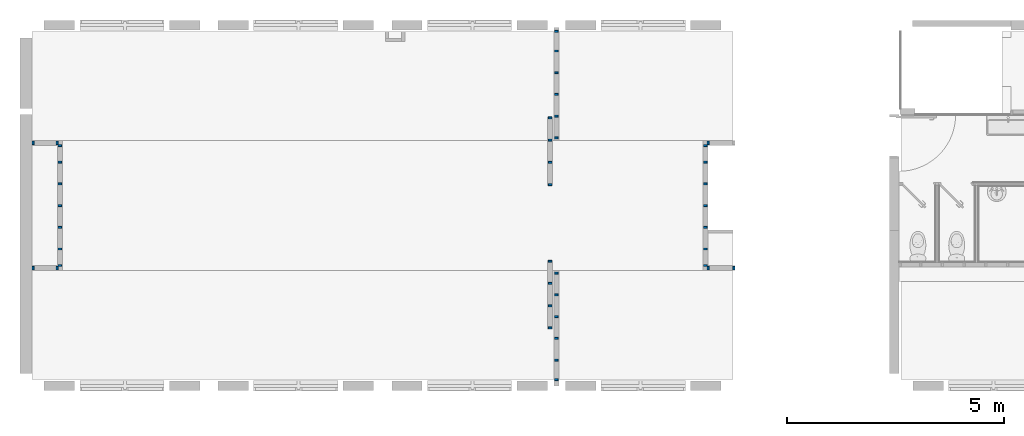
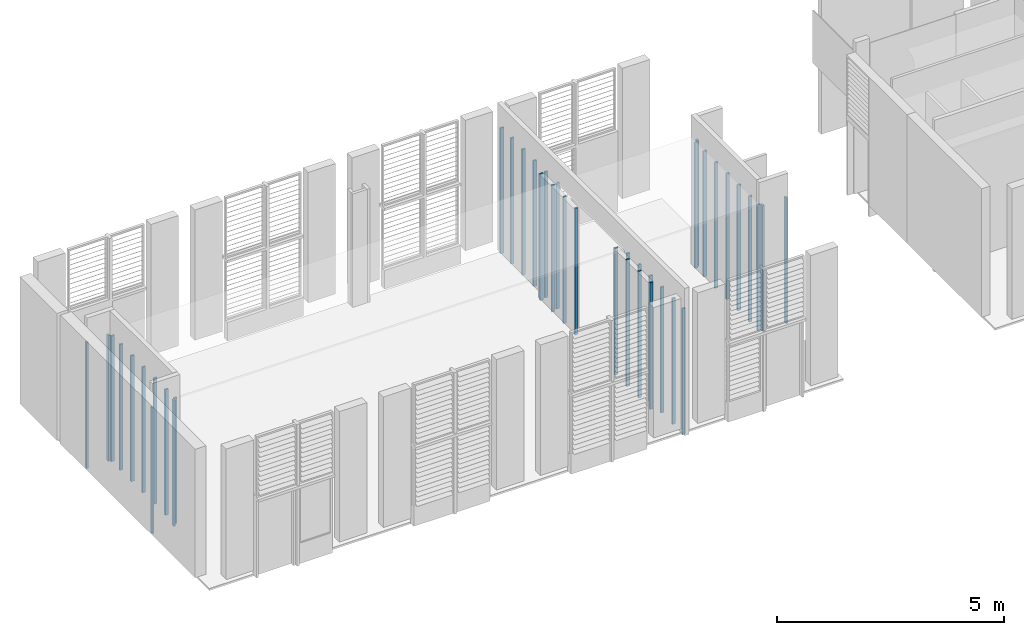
# One storey, part 1 of 8: 41 columns.
"""IFC2X3 building model written with IfcOpenShell, lengths in metres."""

import ifcopenshell
import ifcopenshell.guid

model = None  # the IFC model being written
_history = None  # IfcOwnerHistory: only IFC2X3 demands one
_inside = {}  # id of a spatial element -> (the spatial element, [elements in it])
_under = {}  # id of a project, library or spatial element -> (it, [spatial elements below it])
_declared = {}  # id of a project -> (the project, [libraries it declares])
_typed = {}  # id of a type object -> (the type object, [elements of that type])
_made_of = {}  # id of a material, layer set ... -> (it, [elements and type objects made of it])


def new_model(schema):
    """Start an empty IFC model of exactly this schema.

    Asked for "IFC4X3", IfcOpenShell would pick the latest addendum, in which some entities
    have other attributes; the version numbers below select the first issue.
    IFC2X3 requires an IfcOwnerHistory on every rooted entity: one is made here for all.
    """
    global model, _history
    if schema == "IFC4X3":
        model = ifcopenshell.file(schema_version=(4, 3, 0, 0))
    else:
        model = ifcopenshell.file(schema=schema)
    _inside.clear()
    _under.clear()
    _declared.clear()
    _typed.clear()
    _made_of.clear()
    _history = None
    if model.schema == "IFC2X3":
        org = make("IfcOrganization", Name="unknown")
        user = make(
            "IfcPersonAndOrganization",
            ThePerson=make("IfcPerson", FamilyName="unknown"),
            TheOrganization=org,
        )
        app = make(
            "IfcApplication",
            ApplicationDeveloper=org,
            Version="unknown",
            ApplicationFullName="unknown",
            ApplicationIdentifier="unknown",
        )
        _history = make(
            "IfcOwnerHistory",
            OwningUser=user,
            OwningApplication=app,
            ChangeAction="ADDED",
            CreationDate=0,
        )
    return model


def make(cls, **values):
    """One entity of the class cls with the attributes given. An attribute that is None is left unset."""
    return model.create_entity(
        cls, **{name: value for name, value in values.items() if value is not None}
    )


def entity(cls, *values):
    """Any entity or typed value of the class cls, its attributes in the order of the schema. None: left unset."""
    e = model.create_entity(cls)
    for i, value in enumerate(values):
        if value is not None:
            e[i] = value
    return e


def rooted(cls, **values):
    """An entity with a GlobalId (a new one), such as an element, a storey or a relation."""
    return make(cls, GlobalId=ifcopenshell.guid.new(), OwnerHistory=_history, **values)


def si_unit(unit_type, name, prefix=None):
    """IfcSIUnit, for example si_unit("LENGTHUNIT", "METRE", prefix="MILLI")."""
    return make("IfcSIUnit", UnitType=unit_type, Prefix=prefix, Name=name)


def converted_unit(unit_type, name, factor, base, dimensions=None, offset=None):
    """IfcConversionBasedUnit, such as the inch: factor (a typed value) times the base unit."""
    return make(
        "IfcConversionBasedUnit"
        if offset is None
        else "IfcConversionBasedUnitWithOffset",
        ConversionOffset=offset,
        Dimensions=None
        if dimensions is None
        else entity("IfcDimensionalExponents", *dimensions),
        UnitType=unit_type,
        Name=name,
        ConversionFactor=make(
            "IfcMeasureWithUnit", ValueComponent=factor, UnitComponent=base
        ),
    )


def derived_unit(unit_type, elements):
    """IfcDerivedUnit: a product of units, each with its exponent."""
    return make(
        "IfcDerivedUnit",
        Elements=[
            make("IfcDerivedUnitElement", Unit=unit, Exponent=power)
            for unit, power in elements
        ],
        UnitType=unit_type,
    )


def assignment(units):
    """IfcUnitAssignment: the units of a project."""
    return None if units is None else make("IfcUnitAssignment", Units=units)


def point(xyz):
    """IfcCartesianPoint."""
    return None if xyz is None else make("IfcCartesianPoint", Coordinates=xyz)


def direction(xyz):
    """IfcDirection."""
    return None if xyz is None else make("IfcDirection", DirectionRatios=xyz)


def frame(location, z_axis=None, x_axis=None):
    """IfcAxis2Placement3D, a coordinate frame: its origin and axes. An axis left out is left unset."""
    return make(
        "IfcAxis2Placement3D",
        Location=point(location),
        Axis=direction(z_axis),
        RefDirection=direction(x_axis),
    )


def frame_2d(location, x_axis=None):
    """IfcAxis2Placement2D, a coordinate frame in the plane: its origin and x axis."""
    return make(
        "IfcAxis2Placement2D", Location=point(location), RefDirection=direction(x_axis)
    )


def origin():
    """The frame at (0, 0, 0) with its axes left unset."""
    return frame((0.0, 0.0, 0.0))


def origin_2d_with_axis():
    """The frame at (0, 0) in the plane with the x axis (1, 0) written out."""
    return frame_2d((0.0, 0.0), x_axis=(1.0, 0.0))


def place(relative_to, where):
    """IfcLocalPlacement: puts the frame where relative to a parent placement (None: the world)."""
    return make(
        "IfcLocalPlacement", PlacementRelTo=relative_to, RelativePlacement=where
    )


def context(
    kind, dimensions, precision=None, world=None, true_north=None, identifier=None
):
    """IfcGeometricRepresentationContext, for example the 3D "Model" context."""
    return make(
        "IfcGeometricRepresentationContext",
        ContextIdentifier=identifier,
        ContextType=kind,
        CoordinateSpaceDimension=dimensions,
        Precision=precision,
        WorldCoordinateSystem=world,
        TrueNorth=true_north,
    )


def subcontext(parent, identifier, kind, view, scale=None):
    """IfcGeometricRepresentationSubContext, for example "Body" below "Model"."""
    return make(
        "IfcGeometricRepresentationSubContext",
        ContextIdentifier=identifier,
        ContextType=kind,
        ParentContext=parent,
        TargetScale=scale,
        TargetView=view,
    )


def project(units=None, contexts=None):
    """IfcProject with its units and contexts."""
    return rooted(
        "IfcProject",
        Name="project",
        RepresentationContexts=contexts,
        UnitsInContext=assignment(units),
    )


def spatial(cls, under=None, at=None, **own):
    """A site, building, storey or space (cls), placed at a placement, below another one or the project."""
    s = rooted(cls, ObjectPlacement=at, **own)
    if under is not None:
        _under.setdefault(under.id(), (under, []))[1].append(s)
    return s


def profile(cls, at=None, kind="AREA", **sizes):
    """A parametric profile (cls). Its sizes go by their IFC names, for example OverallWidth=200.0."""
    return make(cls, ProfileType=kind, Position=at, **sizes)


def rectangle(**sizes):
    """IfcRectangleProfileDef."""
    return profile("IfcRectangleProfileDef", **sizes)


def extrude(swept, where, along, depth):
    """IfcExtrudedAreaSolid: the profile swept, set in the frame where, extruded along a direction by depth."""
    return make(
        "IfcExtrudedAreaSolid",
        SweptArea=swept,
        Position=where,
        ExtrudedDirection=direction(along),
        Depth=depth,
    )


def shape(context_of_items, identifier, shape_type, items):
    """IfcShapeRepresentation: the items that make up one representation, for example the "Body"."""
    return make(
        "IfcShapeRepresentation",
        ContextOfItems=context_of_items,
        RepresentationIdentifier=identifier,
        RepresentationType=shape_type,
        Items=items,
    )


def source(mapping_origin, context_of_items, identifier, shape_type, items):
    """IfcRepresentationMap: a shape defined once, which mapped items show again and again."""
    return make(
        "IfcRepresentationMap",
        MappingOrigin=mapping_origin,
        MappedRepresentation=shape(context_of_items, identifier, shape_type, items),
    )


def transform(
    local_origin,
    x_axis=None,
    y_axis=None,
    z_axis=None,
    scale=None,
    scale2=None,
    scale3=None,
    uniform=True,
):
    """IfcCartesianTransformationOperator3D, or its non-uniform kind. x_axis, y_axis, z_axis: its Axis1, 2, 3."""
    if uniform:
        return make(
            "IfcCartesianTransformationOperator3D",
            Axis1=direction(x_axis),
            Axis2=direction(y_axis),
            LocalOrigin=point(local_origin),
            Scale=scale,
            Axis3=direction(z_axis),
        )
    return make(
        "IfcCartesianTransformationOperator3DnonUniform",
        Axis1=direction(x_axis),
        Axis2=direction(y_axis),
        LocalOrigin=point(local_origin),
        Scale=scale,
        Axis3=direction(z_axis),
        Scale2=scale2,
        Scale3=scale3,
    )


def mapped(mapping_source, mapping_target):
    """IfcMappedItem: shows the shape of a source again, moved by a transform."""
    return make(
        "IfcMappedItem", MappingSource=mapping_source, MappingTarget=mapping_target
    )


def material(Name=None, Category=None):
    """IfcMaterial."""
    return make("IfcMaterial", Name=Name, Category=Category)


def made_of(thing, what):
    """Note that an element or type object is made of a material, layer set ...; save() writes the relation."""
    if what is not None:
        _made_of.setdefault(what.id(), (what, []))[1].append(thing)
    return thing


def type_object(cls, material=None, **own):
    """A type object (cls), such as IfcWallType, which elements share."""
    return made_of(rooted(cls, **own), material)


def type_shapes(of_type, sources):
    """Give a type object the sources (RepresentationMaps) that its elements show as mapped items."""
    of_type.RepresentationMaps = sources


def element(
    cls,
    number,
    at=None,
    inside=None,
    cuts=None,
    type_object=None,
    material=None,
    context=None,
    identifier="Body",
    shape_type=None,
    held_by="IfcProductDefinitionShape",
    body=None,
    shapes=None,
    **own,
):
    """One element of the class cls, such as IfcWall. Its Tag is "e" and its number.

    at: its placement. inside: the storey or other place that contains it. cuts: it is an
    opening in that element (IfcRelVoidsElement). A single representation is given by context,
    identifier, shape_type and body (its items); several are given by shapes. held_by: the class
    of the entity that holds the representations. save() writes the other relations.
    """
    e = rooted(cls, Tag="e%d" % number, ObjectPlacement=at, **own)
    if body is not None:
        shapes = [shape(context, identifier, shape_type, body)]
    if shapes is not None:
        e.Representation = make(held_by, Representations=shapes)
    if inside is not None:
        _inside.setdefault(inside.id(), (inside, []))[1].append(e)
    if cuts is not None:
        rooted(
            "IfcRelVoidsElement", RelatingBuildingElement=cuts, RelatedOpeningElement=e
        )
    if type_object is not None:
        _typed.setdefault(type_object.id(), (type_object, []))[1].append(e)
    return made_of(e, material)


def aggregate(whole, parts):
    """IfcRelAggregates: a whole, such as a stair, and the parts it consists of."""
    return rooted("IfcRelAggregates", RelatingObject=whole, RelatedObjects=parts)


def save(model, path):
    """Write the relations noted so far, then the file.

    IfcRelAggregates (storeys below a building ...), IfcRelContainedInSpatialStructure (elements
    in a storey), IfcRelDefinesByType, IfcRelAssociatesMaterial and IfcRelDeclares: one each for
    every whole, place, type object, material and project.
    """
    for whole, parts in _under.values():
        aggregate(whole, parts)
    for where, things in _inside.values():
        rooted(
            "IfcRelContainedInSpatialStructure",
            RelatedElements=things,
            RelatingStructure=where,
        )
    for kind, things in _typed.values():
        rooted("IfcRelDefinesByType", RelatedObjects=things, RelatingType=kind)
    for what, things in _made_of.values():
        rooted("IfcRelAssociatesMaterial", RelatedObjects=things, RelatingMaterial=what)
    for by, libraries in _declared.values():
        rooted("IfcRelDeclares", RelatingContext=by, RelatedDefinitions=libraries)
    model.write(path)


model = new_model("IFC2X3")

# Units and contexts
model_context = context("Model", 3, precision=1e-05, world=origin(), true_north=direction((6.12303176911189e-17, 1.0)))
body_context = subcontext(model_context, "Body", "Model", "MODEL_VIEW")
ifc_project = project(units=[si_unit("LENGTHUNIT", "METRE"), si_unit("AREAUNIT", "SQUARE_METRE"), si_unit("VOLUMEUNIT", "CUBIC_METRE"), converted_unit("PLANEANGLEUNIT", "DEGREE", entity("IfcRatioMeasure", 0.0174532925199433), si_unit("PLANEANGLEUNIT", "RADIAN"), dimensions=[0, 0, 0, 0, 0, 0, 0]), si_unit("MASSUNIT", "GRAM", prefix="KILO"), derived_unit("MASSDENSITYUNIT", [(si_unit("MASSUNIT", "GRAM", prefix="KILO"), 1), (si_unit("LENGTHUNIT", "METRE"), -3)]), si_unit("TIMEUNIT", "SECOND"), si_unit("FREQUENCYUNIT", "HERTZ"), si_unit("THERMODYNAMICTEMPERATUREUNIT", "DEGREE_CELSIUS"), derived_unit("THERMALTRANSMITTANCEUNIT", [(si_unit("MASSUNIT", "GRAM", prefix="KILO"), 1), (si_unit("THERMODYNAMICTEMPERATUREUNIT", "KELVIN"), -1), (si_unit("TIMEUNIT", "SECOND"), -3)]), derived_unit("VOLUMETRICFLOWRATEUNIT", [(si_unit("LENGTHUNIT", "METRE"), 3), (si_unit("TIMEUNIT", "SECOND"), -1)]), si_unit("ELECTRICCURRENTUNIT", "AMPERE"), si_unit("ELECTRICVOLTAGEUNIT", "VOLT"), si_unit("POWERUNIT", "WATT"), si_unit("FORCEUNIT", "NEWTON", prefix="KILO"), si_unit("ILLUMINANCEUNIT", "LUX"), si_unit("LUMINOUSFLUXUNIT", "LUMEN"), si_unit("LUMINOUSINTENSITYUNIT", "CANDELA"), derived_unit("USERDEFINED", [(si_unit("MASSUNIT", "GRAM", prefix="KILO"), -1), (si_unit("LENGTHUNIT", "METRE"), -2), (si_unit("TIMEUNIT", "SECOND"), 3), (si_unit("LUMINOUSFLUXUNIT", "LUMEN"), 1)]), derived_unit("LINEARVELOCITYUNIT", [(si_unit("LENGTHUNIT", "METRE"), 1), (si_unit("TIMEUNIT", "SECOND"), -1)]), si_unit("PRESSUREUNIT", "PASCAL"), derived_unit("USERDEFINED", [(si_unit("LENGTHUNIT", "METRE"), -2), (si_unit("MASSUNIT", "GRAM", prefix="KILO"), 1), (si_unit("TIMEUNIT", "SECOND"), -2)])], contexts=[model_context])

# Site, building, storey
site_placement = place(None, origin())
site = spatial("IfcSite", under=ifc_project, at=site_placement, Name="Surface", CompositionType="ELEMENT")
building_placement = place(site_placement, origin())
building = spatial("IfcBuilding", under=site, at=building_placement, Name="ExPREF", CompositionType="ELEMENT")
storey_placement = place(building_placement, origin())
storey = spatial("IfcBuildingStorey", under=building, at=storey_placement, Name="RDC", CompositionType="ELEMENT", Elevation=-6.89719131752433e-12)

# Columns
ifc_material_1 = material(Name="AA-bois poutres")
column_type_1 = type_object("IfcColumnType", Name="HEA160", PredefinedType="COLUMN")
shared_shape_1 = source(origin(), body_context, "Body", "SweptSolid", [
    extrude(rectangle(XDim=0.08, YDim=0.0449999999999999, at=origin_2d_with_axis()), frame((0.0, 0.0, -0.0550000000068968), z_axis=(0.0, 0.0, 1.0), x_axis=(0.0, -1.0, 0.0)), (0.0, 0.0, 1.0), 3.385),
])
type_shapes(column_type_1, [shared_shape_1])
for number, where, z_axis, x_axis, name in (
    (1, (40.9197436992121, -189.20806962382, 0.0), (0.0, 0.0, 1.0), (0.0, 1.0, 0.0), "poteau bois 8x4.5 cm:HEA160"),
    (2, (40.9197436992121, -188.70806962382, 0.0), (0.0, 0.0, 1.0), (0.0, 1.0, 0.0), "poteau bois 8x4.5 cm:HEA160"),
    (3, (40.9197436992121, -188.20806962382, 0.0), (0.0, 0.0, 1.0), (0.0, 1.0, 0.0), "poteau bois 8x4.5 cm:HEA160"),
    (4, (40.9197436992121, -187.828569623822, 0.0), (0.0, 0.0, 1.0), (0.0, 1.0, 0.0), "poteau bois 8x4.5 cm:HEA160"),
):
    element("IfcColumn", number, at=place(storey_placement, frame(where, z_axis=z_axis, x_axis=x_axis)), inside=storey, type_object=column_type_1, material=ifc_material_1, Name=name, ObjectType="HEA160", context=body_context, shape_type="MappedRepresentation", body=[
        mapped(shared_shape_1, transform((0.0, 0.0, 0.0), scale=1.0)),
    ])
column_placement = place(storey_placement, frame((40.9822436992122, -187.766069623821, 0.0)))
element("IfcColumn", 5, at=column_placement, inside=storey, type_object=column_type_1, material=ifc_material_1, Name="poteau bois 8x4.5 cm:HEA160", ObjectType="HEA160", context=body_context, shape_type="MappedRepresentation", body=[
    mapped(shared_shape_1, transform((0.0, 0.0, 0.0), scale=1.0)),
])
for number, where, z_axis, x_axis, name in (
    (6, (26.0597436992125, -189.708069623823, 0.0), (0.0, 0.0, 1.0), (0.0, -1.0, 0.0), "poteau bois 8x4.5 cm:HEA160"),
    (7, (26.0597436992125, -190.208069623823, 0.0), (0.0, 0.0, 1.0), (0.0, -1.0, 0.0), "poteau bois 8x4.5 cm:HEA160"),
    (8, (26.0597436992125, -190.587569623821, 0.0), (0.0, 0.0, 1.0), (0.0, -1.0, 0.0), "poteau bois 8x4.5 cm:HEA160"),
    (9, (25.4422436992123, -190.650069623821, 0.0), (0.0, 0.0, 1.0), (-1.0, 0.0, 0.0), "poteau bois 8x4.5 cm:HEA160"),
    (10, (25.9972436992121, -190.650069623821, 0.0), (0.0, 0.0, 1.0), (-1.0, 0.0, 0.0), "poteau bois 8x4.5 cm:HEA160"),
):
    element("IfcColumn", number, at=place(storey_placement, frame(where, z_axis=z_axis, x_axis=x_axis)), inside=storey, type_object=column_type_1, material=ifc_material_1, Name=name, ObjectType="HEA160", context=body_context, shape_type="MappedRepresentation", body=[
        mapped(shared_shape_1, transform((0.0, 0.0, 0.0), scale=1.0)),
    ])
column_type_2 = type_object("IfcColumnType", Name="HEA160", PredefinedType="COLUMN")
shared_shape_2 = source(origin(), body_context, "Body", "SweptSolid", [
    extrude(rectangle(XDim=0.08, YDim=0.0449999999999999, at=origin_2d_with_axis()), frame((0.0, 0.0, -0.0550000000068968), z_axis=(0.0, 0.0, 1.0), x_axis=(0.0, -1.0, 0.0)), (0.0, 0.0, 1.0), 3.385),
])
type_shapes(column_type_2, [shared_shape_2])
for number, where, z_axis, x_axis, name in (
    (11, (40.9197436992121, -189.708069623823, 0.0), (0.0, 0.0, 1.0), (0.0, -1.0, 0.0), "poteau bois 8x4.5 cm:HEA160"),
    (12, (40.9197436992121, -190.208069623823, 0.0), (0.0, 0.0, 1.0), (0.0, -1.0, 0.0), "poteau bois 8x4.5 cm:HEA160"),
    (13, (40.9197436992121, -190.587569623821, 0.0), (0.0, 0.0, 1.0), (0.0, -1.0, 0.0), "poteau bois 8x4.5 cm:HEA160"),
):
    element("IfcColumn", number, at=place(storey_placement, frame(where, z_axis=z_axis, x_axis=x_axis)), inside=storey, type_object=column_type_2, material=ifc_material_1, Name=name, ObjectType="HEA160", context=body_context, shape_type="MappedRepresentation", body=[
        mapped(shared_shape_2, transform((0.0, 0.0, 0.0), scale=1.0)),
    ])
for number, where, name in (
    (14, (41.5772436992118, -190.650069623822, 0.0), "poteau bois 8x4.5 cm:HEA160"),
    (15, (40.9822436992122, -190.650069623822, 0.0), "poteau bois 8x4.5 cm:HEA160"),
):
    element("IfcColumn", number, at=place(storey_placement, frame(where)), inside=storey, type_object=column_type_2, material=ifc_material_1, Name=name, ObjectType="HEA160", context=body_context, shape_type="MappedRepresentation", body=[
        mapped(shared_shape_2, transform((0.0, 0.0, 0.0), scale=1.0)),
    ])
for number, where, z_axis, x_axis, name in (
    (16, (26.0597436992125, -189.20806962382, 0.0), (0.0, 0.0, 1.0), (0.0, 1.0, 0.0), "poteau bois 8x4.5 cm:HEA160"),
    (17, (26.0597436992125, -188.70806962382, 0.0), (0.0, 0.0, 1.0), (0.0, 1.0, 0.0), "poteau bois 8x4.5 cm:HEA160"),
    (18, (26.0597436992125, -188.20806962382, 0.0), (0.0, 0.0, 1.0), (0.0, 1.0, 0.0), "poteau bois 8x4.5 cm:HEA160"),
    (19, (26.0597436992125, -187.828569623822, 0.0), (0.0, 0.0, 1.0), (0.0, 1.0, 0.0), "poteau bois 8x4.5 cm:HEA160"),
    (20, (25.4422436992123, -187.766069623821, 0.0), (0.0, 0.0, 1.0), (-1.0, 0.0, 0.0), "poteau bois 8x4.5 cm:HEA160"),
    (21, (25.9972436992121, -187.766069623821, 0.0), (0.0, 0.0, 1.0), (-1.0, 0.0, 0.0), "poteau bois 8x4.5 cm:HEA160"),
):
    element("IfcColumn", number, at=place(storey_placement, frame(where, z_axis=z_axis, x_axis=x_axis)), inside=storey, type_object=column_type_2, material=ifc_material_1, Name=name, ObjectType="HEA160", context=body_context, shape_type="MappedRepresentation", body=[
        mapped(shared_shape_2, transform((0.0, 0.0, 0.0), scale=1.0)),
    ])
ifc_material_2 = material(Name="AA-bois tasseau cloison")
column_type_3 = type_object("IfcColumnType", Name="HEA160", PredefinedType="COLUMN")
shared_shape_3 = source(origin(), body_context, "Body", "SweptSolid", [
    extrude(rectangle(XDim=0.08, YDim=0.0449999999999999, at=origin_2d_with_axis()), frame((0.0, 0.0, -0.0550000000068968), z_axis=(0.0, 0.0, 1.0), x_axis=(0.0, -1.0, 0.0)), (0.0, 0.0, 1.0), 3.385),
])
type_shapes(column_type_3, [shared_shape_3])
for number, where, z_axis, x_axis, name in (
    (22, (37.4897436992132, -185.19898794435, 0.0), (0.0, 0.0, 1.0), (0.0, -1.0, 0.0), "poteau bois 8x4.5 cm:HEA160"),
    (23, (37.4897436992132, -185.650569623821, 0.0), (0.0, 0.0, 1.0), (0.0, -1.0, 0.0), "poteau bois 8x4.5 cm:HEA160"),
    (24, (37.4897436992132, -186.150569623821, 0.0), (0.0, 0.0, 1.0), (0.0, -1.0, 0.0), "poteau bois 8x4.5 cm:HEA160"),
    (25, (37.4897436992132, -186.650569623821, 0.0), (0.0, 0.0, 1.0), (0.0, -1.0, 0.0), "poteau bois 8x4.5 cm:HEA160"),
    (26, (37.4897436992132, -187.150569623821, 0.0), (0.0, 0.0, 1.0), (0.0, -1.0, 0.0), "poteau bois 8x4.5 cm:HEA160"),
    (27, (37.4897436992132, -187.650569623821, 0.0), (0.0, 0.0, 1.0), (0.0, -1.0, 0.0), "poteau bois 8x4.5 cm:HEA160"),
):
    element("IfcColumn", number, at=place(storey_placement, frame(where, z_axis=z_axis, x_axis=x_axis)), inside=storey, type_object=column_type_3, material=ifc_material_2, Name=name, ObjectType="HEA160", context=body_context, shape_type="MappedRepresentation", body=[
        mapped(shared_shape_3, transform((0.0, 0.0, 0.0), scale=1.0)),
    ])
column_type_4 = type_object("IfcColumnType", Name="HEA160", PredefinedType="COLUMN")
shared_shape_4 = source(origin(), body_context, "Body", "SweptSolid", [
    extrude(rectangle(XDim=0.08, YDim=0.0449999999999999, at=origin_2d_with_axis()), frame((0.0, 0.0, -0.0550000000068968), z_axis=(0.0, 0.0, 1.0), x_axis=(0.0, -1.0, 0.0)), (0.0, 0.0, 1.0), 3.385),
])
type_shapes(column_type_4, [shared_shape_4])
for number, where, z_axis, x_axis, name in (
    (28, (37.4897436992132, -193.217151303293, 0.0), (0.0, 0.0, 1.0), (0.0, 1.0, 0.0), "poteau bois 8x4.5 cm:HEA160"),
    (29, (37.4897436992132, -192.765569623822, 0.0), (0.0, 0.0, 1.0), (0.0, 1.0, 0.0), "poteau bois 8x4.5 cm:HEA160"),
    (30, (37.4897436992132, -192.265569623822, 0.0), (0.0, 0.0, 1.0), (0.0, 1.0, 0.0), "poteau bois 8x4.5 cm:HEA160"),
    (31, (37.4897436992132, -191.765569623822, 0.0), (0.0, 0.0, 1.0), (0.0, 1.0, 0.0), "poteau bois 8x4.5 cm:HEA160"),
    (32, (37.4897436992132, -191.265569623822, 0.0), (0.0, 0.0, 1.0), (0.0, 1.0, 0.0), "poteau bois 8x4.5 cm:HEA160"),
    (33, (37.4897436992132, -190.765569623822, 0.0), (0.0, 0.0, 1.0), (0.0, 1.0, 0.0), "poteau bois 8x4.5 cm:HEA160"),
):
    element("IfcColumn", number, at=place(storey_placement, frame(where, z_axis=z_axis, x_axis=x_axis)), inside=storey, type_object=column_type_4, material=ifc_material_2, Name=name, ObjectType="HEA160", context=body_context, shape_type="MappedRepresentation", body=[
        mapped(shared_shape_4, transform((0.0, 0.0, 0.0), scale=1.0)),
    ])
column_type_5 = type_object("IfcColumnType", Name="HEA160", PredefinedType="COLUMN")
shared_shape_5 = source(origin(), body_context, "Body", "SweptSolid", [
    extrude(rectangle(XDim=0.08, YDim=0.0449999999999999, at=origin_2d_with_axis()), frame((0.0, 0.0, -0.0550000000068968), z_axis=(0.0, 0.0, 1.0), x_axis=(0.0, -1.0, 0.0)), (0.0, 0.0, 1.0), 3.4050000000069),
])
type_shapes(column_type_5, [shared_shape_5])
for number, where, z_axis, x_axis, name in (
    (34, (37.3462379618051, -187.190569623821, 0.0), (0.0, 0.0, 1.0), (0.0, 1.0, 0.0), "poteau bois 8x4.5 cm:HEA160"),
    (35, (37.3462379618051, -188.725569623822, 0.0), (0.0, 0.0, 1.0), (0.0, 1.0, 0.0), "poteau bois 8x4.5 cm:HEA160"),
    (36, (37.3462379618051, -188.215569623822, 0.0), (0.0, 0.0, 1.0), (0.0, 1.0, 0.0), "poteau bois 8x4.5 cm:HEA160"),
    (37, (37.3462379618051, -187.700569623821, 0.0), (0.0, 0.0, 1.0), (0.0, 1.0, 0.0), "poteau bois 8x4.5 cm:HEA160"),
):
    element("IfcColumn", number, at=place(storey_placement, frame(where, z_axis=z_axis, x_axis=x_axis)), inside=storey, type_object=column_type_5, material=ifc_material_2, Name=name, ObjectType="HEA160", context=body_context, shape_type="MappedRepresentation", body=[
        mapped(shared_shape_5, transform((0.0, 0.0, 0.0), scale=1.0)),
    ])
column_type_6 = type_object("IfcColumnType", Name="HEA160", PredefinedType="COLUMN")
shared_shape_6 = source(origin(), body_context, "Body", "SweptSolid", [
    extrude(rectangle(XDim=0.08, YDim=0.0449999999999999, at=origin_2d_with_axis()), frame((0.0, 0.0, -0.0550000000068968), z_axis=(0.0, 0.0, 1.0), x_axis=(0.0, -1.0, 0.0)), (0.0, 0.0, 1.0), 3.4050000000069),
])
type_shapes(column_type_6, [shared_shape_6])
for number, where, z_axis, x_axis, name in (
    (38, (37.3462379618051, -192.025569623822, 0.0), (0.0, 0.0, 1.0), (0.0, -1.0, 0.0), "poteau bois 8x4.5 cm:HEA160"),
    (39, (37.3462379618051, -190.490569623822, 0.0), (0.0, 0.0, 1.0), (0.0, -1.0, 0.0), "poteau bois 8x4.5 cm:HEA160"),
    (40, (37.3462379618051, -191.000569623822, 0.0), (0.0, 0.0, 1.0), (0.0, -1.0, 0.0), "poteau bois 8x4.5 cm:HEA160"),
    (41, (37.3462379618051, -191.515569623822, 0.0), (0.0, 0.0, 1.0), (0.0, -1.0, 0.0), "poteau bois 8x4.5 cm:HEA160"),
):
    element("IfcColumn", number, at=place(storey_placement, frame(where, z_axis=z_axis, x_axis=x_axis)), inside=storey, type_object=column_type_6, material=ifc_material_2, Name=name, ObjectType="HEA160", context=body_context, shape_type="MappedRepresentation", body=[
        mapped(shared_shape_6, transform((0.0, 0.0, 0.0), scale=1.0)),
    ])

save(model, "model.ifc")
